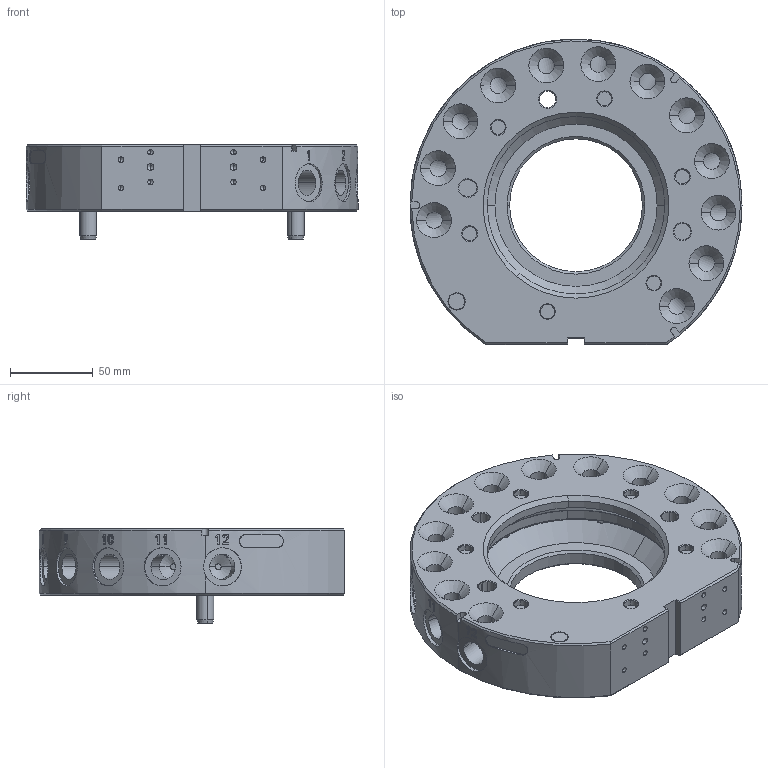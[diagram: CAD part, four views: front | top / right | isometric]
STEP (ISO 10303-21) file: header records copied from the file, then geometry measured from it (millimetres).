
FILE_DESCRIPTION (( 'STEP AP203' ), '1' );
FILE_NAME ('QCA-200G.STEP', '2024-03-20T02:15:23', ( '微软用户' ), ( '微软中国' ), 'SwSTEP 2.0', 'SolidWorks 2018', '' );
FILE_SCHEMA (( 'CONFIG_CONTROL_DESIGN' ));
Length unit declared in the file: millimetre
Products named in the file (1): QCA-200G
Bounding box: 200 x 184 x 57 mm (x, y, z)
Volume: 764595.2 mm3; surface area: 127266.5 mm2
Topology: 1 solids, 15 shells, 1126 faces, 2570 edges, 1514 vertices
Faces by surface type: cone 402, cylinder 362, plane 294, bspline 46, torus 22
Entity records: 38675 total; most frequent: CARTESIAN_POINT 13116, DIRECTION 5608, ORIENTED_EDGE 5068, EDGE_CURVE 2534, AXIS2_PLACEMENT_3D 2194, VERTEX_POINT 1514, EDGE_LOOP 1268, VECTOR 1220
